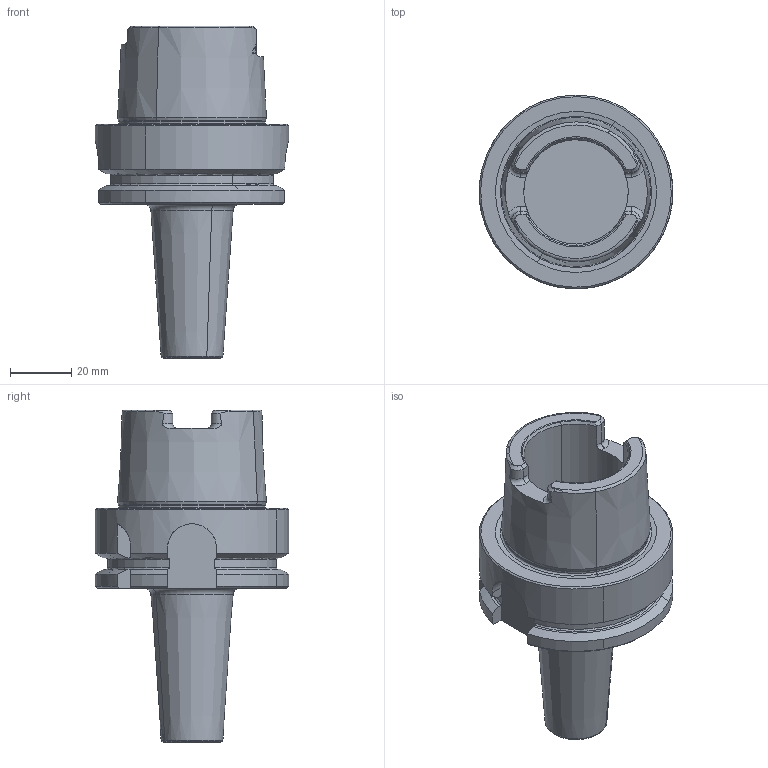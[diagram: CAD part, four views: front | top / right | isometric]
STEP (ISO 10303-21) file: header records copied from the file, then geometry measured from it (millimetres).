
FILE_DESCRIPTION(('CATIA V5 STEP','CAx-IF Rec.Pracs.--- Model Styling and Organization---1.2---2011-12-15'),'2;1');
FILE_NAME('\\nas01\drv1\utils\eitdev\rte\eit\transmagicconvert\db\out\4504451 L.stp','2014-03-27T08:08:25+00:00',('none'),('none'),'CATIA Version 5 Release 21 SP 5 (IN-10)','CATIA V5 STEP AP214','none');
FILE_SCHEMA(('AUTOMOTIVE_DESIGN { 1 0 10303 214 1 1 1 1 }'));
Length unit declared in the file: millimetre
Products named in the file (1): 620152371_0 Holder-Tool HSK A 63 SRK 12X50
Bounding box: 63 x 63 x 108 mm (x, y, z)
Volume: 112341.9 mm3; surface area: 24371.3 mm2
Topology: 1 solids, 1 shells, 134 faces, 347 edges, 218 vertices
Faces by surface type: plane 41, cone 35, cylinder 30, torus 28
Entity records: 4179 total; most frequent: CARTESIAN_POINT 1281, ORIENTED_EDGE 694, DIRECTION 428, EDGE_CURVE 347, AXIS2_PLACEMENT_3D 229, VERTEX_POINT 218, CIRCLE 149, EDGE_LOOP 137
